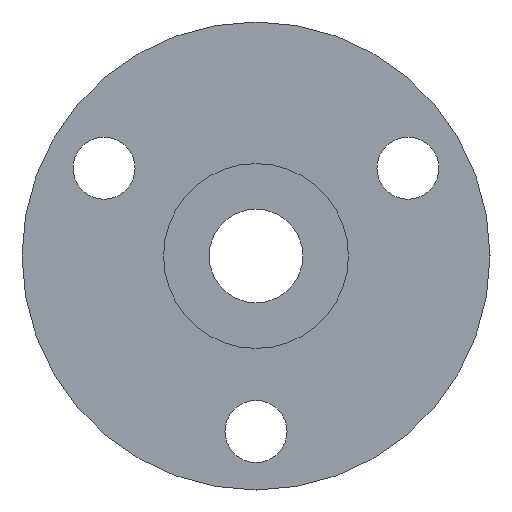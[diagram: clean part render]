
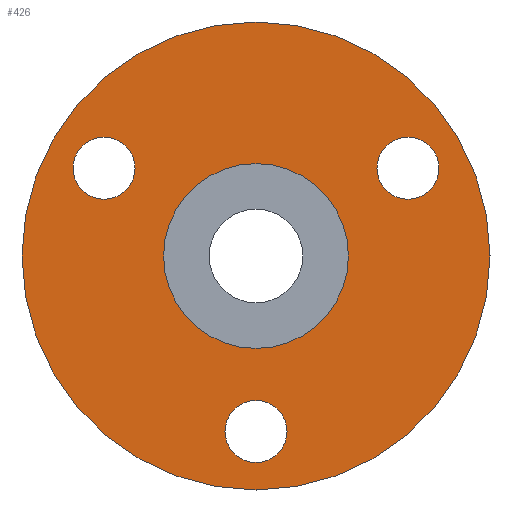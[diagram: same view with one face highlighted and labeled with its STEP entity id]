
A CAD part, front view. The second image highlights one B-rep face of the part: STEP entity #426.
In plain terms, the highlighted planar face has unit normal (0, -1, 0).
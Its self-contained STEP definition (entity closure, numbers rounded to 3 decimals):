
#5 = CARTESIAN_POINT ( 'NONE',  ( 12.99, -20.6, 7.5 ) ) ;
#20 = CARTESIAN_POINT ( 'NONE',  ( 0., -20.6, -7.9 ) ) ;
#43 = AXIS2_PLACEMENT_3D ( 'NONE', #418, #1069, #991 ) ;
#68 = ORIENTED_EDGE ( 'NONE', *, *, #641, .F. ) ;
#81 = CARTESIAN_POINT ( 'NONE',  ( 12.99, -20.6, 4.85 ) ) ;
#103 = DIRECTION ( 'NONE',  ( 0., 0., -1. ) ) ;
#111 = AXIS2_PLACEMENT_3D ( 'NONE', #772, #488, #367 ) ;
#113 = CARTESIAN_POINT ( 'NONE',  ( 0., -20.6, -17.65 ) ) ;
#126 = CIRCLE ( 'NONE', #872, 7.9 ) ;
#127 = VERTEX_POINT ( 'NONE', #81 ) ;
#137 = EDGE_LOOP ( 'NONE', ( #743, #504 ) ) ;
#138 = DIRECTION ( 'NONE',  ( 0., 1., 0. ) ) ;
#142 = ORIENTED_EDGE ( 'NONE', *, *, #1064, .F. ) ;
#148 = CARTESIAN_POINT ( 'NONE',  ( 12.99, -20.6, 10.15 ) ) ;
#164 = VERTEX_POINT ( 'NONE', #589 ) ;
#170 = ORIENTED_EDGE ( 'NONE', *, *, #1014, .F. ) ;
#174 = VERTEX_POINT ( 'NONE', #20 ) ;
#178 = ORIENTED_EDGE ( 'NONE', *, *, #1058, .F. ) ;
#193 = PLANE ( 'NONE',  #861 ) ;
#194 = DIRECTION ( 'NONE',  ( 0., -1., 0. ) ) ;
#202 = DIRECTION ( 'NONE',  ( 0., -1., 0. ) ) ;
#223 = DIRECTION ( 'NONE',  ( 0., 1., 0. ) ) ;
#224 = CARTESIAN_POINT ( 'NONE',  ( -12.99, -20.6, 10.15 ) ) ;
#232 = VERTEX_POINT ( 'NONE', #784 ) ;
#250 = ORIENTED_EDGE ( 'NONE', *, *, #1030, .F. ) ;
#278 = CARTESIAN_POINT ( 'NONE',  ( 0., -20.6, 20. ) ) ;
#281 = EDGE_LOOP ( 'NONE', ( #250, #787 ) ) ;
#289 = FACE_BOUND ( 'NONE', #1148, .T. ) ;
#294 = AXIS2_PLACEMENT_3D ( 'NONE', #5, #678, #1056 ) ;
#298 = FACE_OUTER_BOUND ( 'NONE', #281, .T. ) ;
#303 = DIRECTION ( 'NONE',  ( 0., 1., 0. ) ) ;
#311 = CARTESIAN_POINT ( 'NONE',  ( 0., -20.6, 0. ) ) ;
#317 = DIRECTION ( 'NONE',  ( 0., 0., 1. ) ) ;
#333 = DIRECTION ( 'NONE',  ( 0., 0., 1. ) ) ;
#344 = EDGE_LOOP ( 'NONE', ( #170, #142 ) ) ;
#367 = DIRECTION ( 'NONE',  ( 0., 0., 1. ) ) ;
#394 = CIRCLE ( 'NONE', #942, 2.65 ) ;
#418 = CARTESIAN_POINT ( 'NONE',  ( 12.99, -20.6, 7.5 ) ) ;
#426 = ADVANCED_FACE ( 'NONE', ( #876, #289, #670, #1157, #298 ), #193, .T. ) ;
#448 = CIRCLE ( 'NONE', #545, 7.9 ) ;
#449 = EDGE_LOOP ( 'NONE', ( #1072, #510 ) ) ;
#456 = AXIS2_PLACEMENT_3D ( 'NONE', #973, #303, #491 ) ;
#488 = DIRECTION ( 'NONE',  ( 0., 1., 0. ) ) ;
#491 = DIRECTION ( 'NONE',  ( 0., 0., 1. ) ) ;
#504 = ORIENTED_EDGE ( 'NONE', *, *, #932, .F. ) ;
#510 = ORIENTED_EDGE ( 'NONE', *, *, #648, .T. ) ;
#545 = AXIS2_PLACEMENT_3D ( 'NONE', #1002, #138, #317 ) ;
#558 = DIRECTION ( 'NONE',  ( 0., 0., -1. ) ) ;
#575 = CIRCLE ( 'NONE', #43, 2.65 ) ;
#578 = CIRCLE ( 'NONE', #1082, 2.65 ) ;
#580 = DIRECTION ( 'NONE',  ( 0., 0., -1. ) ) ;
#582 = CARTESIAN_POINT ( 'NONE',  ( -12.99, -20.6, 7.5 ) ) ;
#589 = CARTESIAN_POINT ( 'NONE',  ( 0., -20.6, -12.35 ) ) ;
#608 = DIRECTION ( 'NONE',  ( 0., -1., 0. ) ) ;
#641 = EDGE_CURVE ( 'NONE', #769, #127, #575, .T. ) ;
#648 = EDGE_CURVE ( 'NONE', #174, #989, #448, .T. ) ;
#649 = VERTEX_POINT ( 'NONE', #113 ) ;
#651 = CIRCLE ( 'NONE', #294, 2.65 ) ;
#664 = CARTESIAN_POINT ( 'NONE',  ( 0., -20.6, 20. ) ) ;
#670 = FACE_BOUND ( 'NONE', #137, .T. ) ;
#676 = DIRECTION ( 'NONE',  ( 0., -1., 0. ) ) ;
#678 = DIRECTION ( 'NONE',  ( 0., -1., 0. ) ) ;
#687 = EDGE_CURVE ( 'NONE', #989, #174, #126, .T. ) ;
#696 = CARTESIAN_POINT ( 'NONE',  ( 0., -20.6, 7.9 ) ) ;
#743 = ORIENTED_EDGE ( 'NONE', *, *, #1096, .F. ) ;
#758 = CIRCLE ( 'NONE', #1132, 2.65 ) ;
#769 = VERTEX_POINT ( 'NONE', #148 ) ;
#772 = CARTESIAN_POINT ( 'NONE',  ( 0., -20.6, 0. ) ) ;
#784 = CARTESIAN_POINT ( 'NONE',  ( -12.99, -20.6, 4.85 ) ) ;
#787 = ORIENTED_EDGE ( 'NONE', *, *, #1088, .F. ) ;
#797 = CIRCLE ( 'NONE', #111, 20. ) ;
#819 = AXIS2_PLACEMENT_3D ( 'NONE', #954, #202, #970 ) ;
#835 = VERTEX_POINT ( 'NONE', #278 ) ;
#861 = AXIS2_PLACEMENT_3D ( 'NONE', #664, #676, #1119 ) ;
#872 = AXIS2_PLACEMENT_3D ( 'NONE', #311, #223, #333 ) ;
#876 = FACE_BOUND ( 'NONE', #344, .T. ) ;
#885 = CIRCLE ( 'NONE', #456, 20. ) ;
#900 = CARTESIAN_POINT ( 'NONE',  ( 0., -20.6, -15. ) ) ;
#932 = EDGE_CURVE ( 'NONE', #649, #164, #578, .T. ) ;
#942 = AXIS2_PLACEMENT_3D ( 'NONE', #582, #194, #558 ) ;
#954 = CARTESIAN_POINT ( 'NONE',  ( 0., -20.6, -15. ) ) ;
#970 = DIRECTION ( 'NONE',  ( 0., 0., -1. ) ) ;
#973 = CARTESIAN_POINT ( 'NONE',  ( 0., -20.6, 0. ) ) ;
#989 = VERTEX_POINT ( 'NONE', #696 ) ;
#991 = DIRECTION ( 'NONE',  ( 0., 0., -1. ) ) ;
#1002 = CARTESIAN_POINT ( 'NONE',  ( 0., -20.6, 0. ) ) ;
#1014 = EDGE_CURVE ( 'NONE', #1213, #232, #758, .T. ) ;
#1030 = EDGE_CURVE ( 'NONE', #835, #1109, #885, .T. ) ;
#1036 = CIRCLE ( 'NONE', #819, 2.65 ) ;
#1056 = DIRECTION ( 'NONE',  ( 0., 0., -1. ) ) ;
#1058 = EDGE_CURVE ( 'NONE', #127, #769, #651, .T. ) ;
#1064 = EDGE_CURVE ( 'NONE', #232, #1213, #394, .T. ) ;
#1069 = DIRECTION ( 'NONE',  ( 0., -1., 0. ) ) ;
#1072 = ORIENTED_EDGE ( 'NONE', *, *, #687, .T. ) ;
#1080 = DIRECTION ( 'NONE',  ( 0., -1., 0. ) ) ;
#1082 = AXIS2_PLACEMENT_3D ( 'NONE', #900, #1080, #103 ) ;
#1086 = CARTESIAN_POINT ( 'NONE',  ( -12.99, -20.6, 7.5 ) ) ;
#1088 = EDGE_CURVE ( 'NONE', #1109, #835, #797, .T. ) ;
#1096 = EDGE_CURVE ( 'NONE', #164, #649, #1036, .T. ) ;
#1109 = VERTEX_POINT ( 'NONE', #1138 ) ;
#1119 = DIRECTION ( 'NONE',  ( 0., 0., -1. ) ) ;
#1132 = AXIS2_PLACEMENT_3D ( 'NONE', #1086, #608, #580 ) ;
#1138 = CARTESIAN_POINT ( 'NONE',  ( 0., -20.6, -20. ) ) ;
#1148 = EDGE_LOOP ( 'NONE', ( #68, #178 ) ) ;
#1157 = FACE_BOUND ( 'NONE', #449, .T. ) ;
#1213 = VERTEX_POINT ( 'NONE', #224 ) ;
